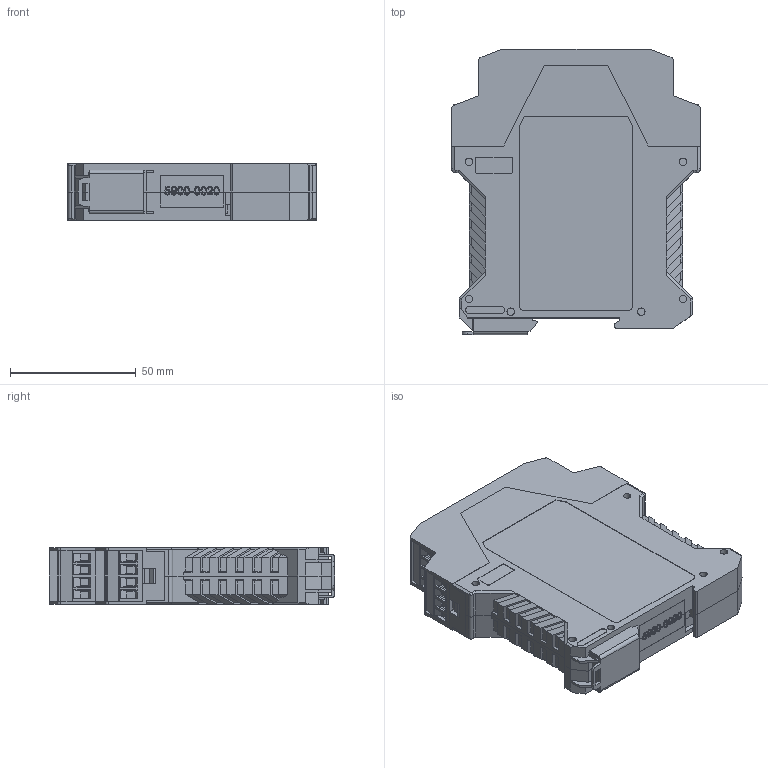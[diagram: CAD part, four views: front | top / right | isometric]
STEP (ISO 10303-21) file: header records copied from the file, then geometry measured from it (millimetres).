
FILE_DESCRIPTION (( 'STEP AP214' ), '1' );
FILE_NAME ('5000-0001, S1A LVDT Signal Conditioner Module Assy, 10-01-20.STEP', '2020-10-01T20:35:25', ( 'Gem' ), ( '' ), 'SwSTEP 2.0', 'SolidWorks 2013', '' );
FILE_SCHEMA (( 'AUTOMOTIVE_DESIGN' ));
Length unit declared in the file: inch
Products named in the file (14): ME_22.5_UTR_G_H_H.Select__00500174_1; Fussriegel_17.5_L30_H.Select__00315466_1; ME_Verriegelungshaken_H.Select__00446697_1; 5800-0001,Screw connector plug (generic)_Blue; 5000-0001, S1A LVDT Signal Conditioner Module Assy, 10-01-20; 5800-0001,Screw connector plug (generic)_Green; 5800-0001,Screw connector plug (generic)_Red; 5800-0001,Screw connector plug (generic)_black; MSTBT_2.5-4-ST; 5700-0021, Label, ASG p-n, S1A LVDT_1; 2907761 [ME 22,5 OT-MSTBO KMGY]_1; ME_22_5_OT-MSTBO_H.Select__00273265_1; 2854445 [ME 22,5 UTG KMGY]_1; ME_22.5_UTL_G_H_H.Select__00500173_1
Assembly tree (17 placements, depth 3):
  5000-0001, S1A LVDT Signal Conditioner Module Assy, 10-01-20
    2854445 [ME 22,5 UTG KMGY]_1
      ME_Verriegelungshaken_H.Select__00446697_1  x2
      Fussriegel_17.5_L30_H.Select__00315466_1
      ME_22.5_UTR_G_H_H.Select__00500174_1
      ME_22.5_UTL_G_H_H.Select__00500173_1
    2907761 [ME 22,5 OT-MSTBO KMGY]_1
      ME_22_5_OT-MSTBO_H.Select__00273265_1
    5700-0021, Label, ASG p-n, S1A LVDT_1
    5800-0001,Screw connector plug (generic)_black
      MSTBT_2.5-4-ST
    5800-0001,Screw connector plug (generic)_Red
      MSTBT_2.5-4-ST
    5800-0001,Screw connector plug (generic)_Green
      MSTBT_2.5-4-ST
    5800-0001,Screw connector plug (generic)_Blue
      MSTBT_2.5-4-ST
Bounding box: 99 x 113.6 x 22.6 mm (x, y, z)
Volume: 47619.8 mm3; surface area: 69358.6 mm2
Topology: 7 solids, 11 shells, 3817 faces, 10466 edges, 6918 vertices
Faces by surface type: plane 3041, cylinder 575, bspline 197, cone 4
Entity records: 78284 total; most frequent: CARTESIAN_POINT 15852, ORIENTED_EDGE 8880, DIRECTION 7745, EDGE_CURVE 4443, VECTOR 3759, LINE 3759, VERTEX_POINT 2933, AXIS2_PLACEMENT_3D 1993
